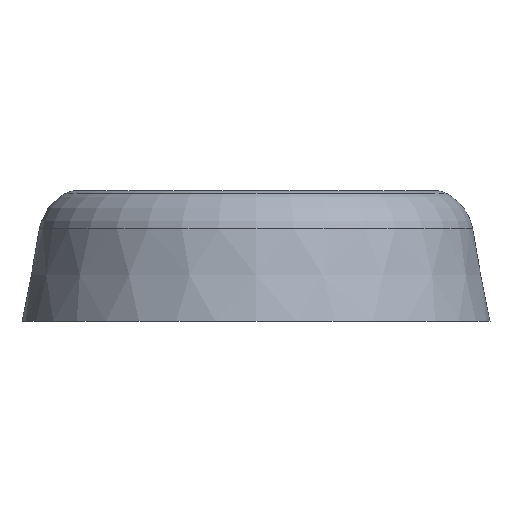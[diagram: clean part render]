
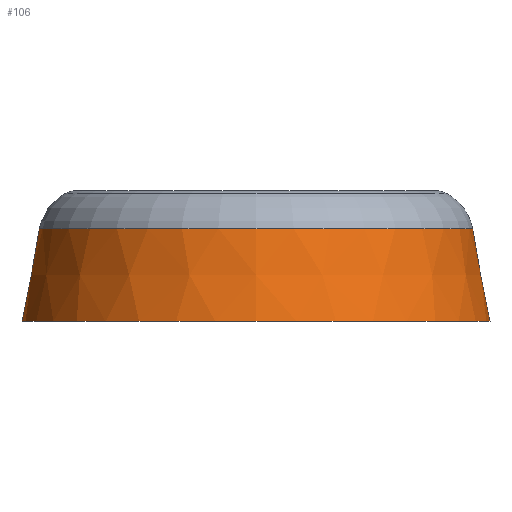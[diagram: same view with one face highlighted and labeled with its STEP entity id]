
A CAD part, front view. The second image highlights one B-rep face of the part: STEP entity #106.
In plain terms, the highlighted conical face has half-angle 10.62 degrees and reference radius 13.25 mm.
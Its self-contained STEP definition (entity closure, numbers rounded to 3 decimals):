
#18=LINE('',#209,#20);
#20=VECTOR('',#174,13.25);
#22=CONICAL_SURFACE('',#136,13.25,0.185);
#26=FACE_OUTER_BOUND('',#33,.T.);
#33=EDGE_LOOP('',(#88,#89,#90,#91,#92));
#43=CIRCLE('',#133,12.959);
#44=CIRCLE('',#134,12.959);
#46=CIRCLE('',#137,14.);
#54=VERTEX_POINT('',#201);
#55=VERTEX_POINT('',#202);
#56=VERTEX_POINT('',#207);
#65=EDGE_CURVE('',#54,#55,#43,.T.);
#66=EDGE_CURVE('',#55,#54,#44,.T.);
#68=EDGE_CURVE('',#56,#56,#46,.T.);
#69=EDGE_CURVE('',#56,#55,#18,.T.);
#88=ORIENTED_EDGE('',*,*,#68,.F.);
#89=ORIENTED_EDGE('',*,*,#69,.T.);
#90=ORIENTED_EDGE('',*,*,#65,.F.);
#91=ORIENTED_EDGE('',*,*,#66,.F.);
#92=ORIENTED_EDGE('',*,*,#69,.F.);
#106=ADVANCED_FACE('',(#26),#22,.T.);
#133=AXIS2_PLACEMENT_3D('',#203,#164,#165);
#134=AXIS2_PLACEMENT_3D('',#204,#166,#167);
#136=AXIS2_PLACEMENT_3D('',#206,#170,#171);
#137=AXIS2_PLACEMENT_3D('',#208,#172,#173);
#164=DIRECTION('center_axis',(0.,0.,1.));
#165=DIRECTION('ref_axis',(0.,-1.,0.));
#166=DIRECTION('center_axis',(0.,0.,1.));
#167=DIRECTION('ref_axis',(0.,-1.,0.));
#170=DIRECTION('center_axis',(0.,0.,-1.));
#171=DIRECTION('ref_axis',(0.,1.,0.));
#172=DIRECTION('center_axis',(0.,0.,-1.));
#173=DIRECTION('ref_axis',(1.,0.,0.));
#174=DIRECTION('',(0.,0.184,0.983));
#201=CARTESIAN_POINT('',(12.959,0.,5.553));
#202=CARTESIAN_POINT('',(0.,-12.959,5.553));
#203=CARTESIAN_POINT('Origin',(0.,0.,5.553));
#204=CARTESIAN_POINT('Origin',(0.,0.,5.553));
#206=CARTESIAN_POINT('Origin',(0.,0.,4.));
#207=CARTESIAN_POINT('',(0.,-14.,0.));
#208=CARTESIAN_POINT('Origin',(0.,0.,0.));
#209=CARTESIAN_POINT('',(0.,-13.25,4.));
